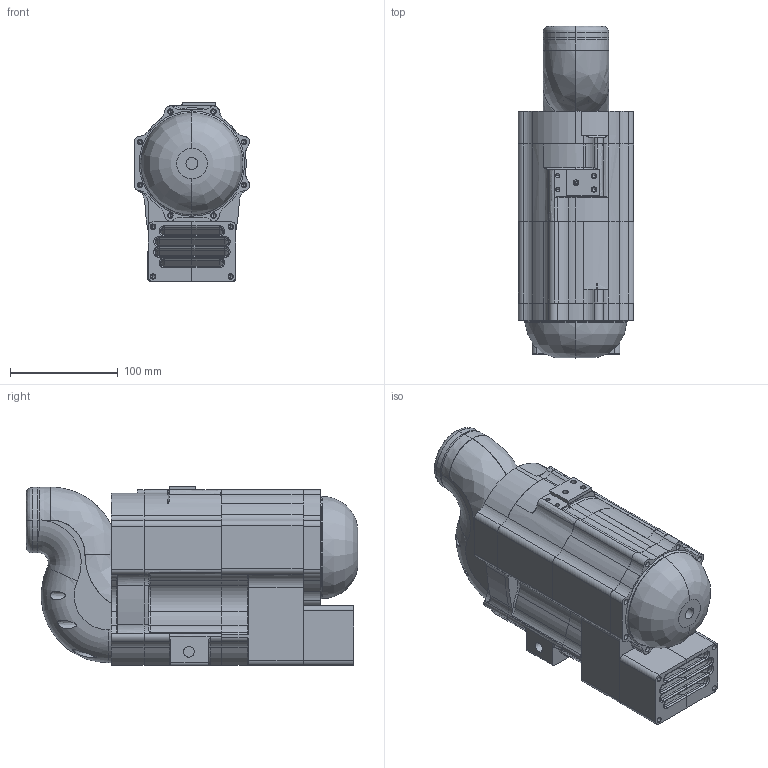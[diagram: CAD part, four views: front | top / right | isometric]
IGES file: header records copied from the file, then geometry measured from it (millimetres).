
Start section: Comment
Global section: file name: MBBP gen3 assembly revC.igs; native system:  By Spatial Corp. IGES DAT; preprocessor: XIGES V1.0; author: Author; organization: Title; date: 20030602.130123; units: metre
Bounding box: 106.8 x 307.34 x 165.73 mm (x, y, z)
Surface area: 450315.2 mm2 (no closed solid volume)
Topology: 0 solids, 0 shells, 1290 faces, 6513 edges, 6412 vertices
Faces by surface type: revolution 1042, extrusion 228, bspline 20
